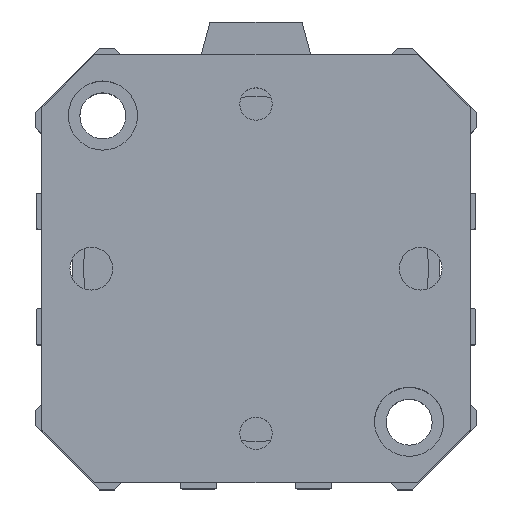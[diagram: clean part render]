
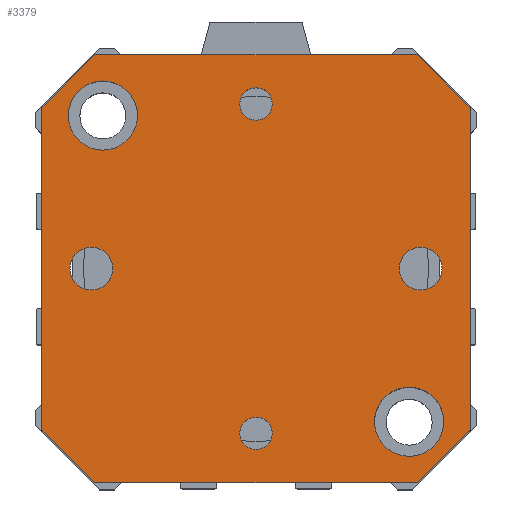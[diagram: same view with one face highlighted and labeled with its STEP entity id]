
A CAD part, top view. The second image highlights one B-rep face of the part: STEP entity #3379.
In plain terms, the highlighted planar face has unit normal (0, 0, 1).
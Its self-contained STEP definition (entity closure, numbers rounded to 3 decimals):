
#265=LINE('',#5630,#519);
#267=LINE('',#5634,#521);
#269=LINE('',#5638,#523);
#271=LINE('',#5642,#525);
#273=LINE('',#5646,#527);
#275=LINE('',#5650,#529);
#277=LINE('',#5654,#531);
#279=LINE('',#5657,#533);
#519=VECTOR('',#4681,49.);
#521=VECTOR('',#4685,11.314);
#523=VECTOR('',#4689,49.);
#525=VECTOR('',#4693,11.314);
#527=VECTOR('',#4697,49.);
#529=VECTOR('',#4701,11.314);
#531=VECTOR('',#4705,49.);
#533=VECTOR('',#4709,11.314);
#627=PLANE('',#3743);
#716=FACE_BOUND('',#1138,.T.);
#717=FACE_BOUND('',#1139,.T.);
#718=FACE_BOUND('',#1140,.T.);
#719=FACE_BOUND('',#1141,.T.);
#720=FACE_BOUND('',#1142,.T.);
#721=FACE_BOUND('',#1143,.T.);
#722=FACE_BOUND('',#1144,.T.);
#1138=EDGE_LOOP('',(#2914));
#1139=EDGE_LOOP('',(#2915));
#1140=EDGE_LOOP('',(#2916));
#1141=EDGE_LOOP('',(#2917));
#1142=EDGE_LOOP('',(#2918));
#1143=EDGE_LOOP('',(#2919));
#1144=EDGE_LOOP('',(#2920,#2921,#2922,#2923,#2924,#2925,#2926,#2927));
#1309=CIRCLE('',#3699,2.459);
#1311=CIRCLE('',#3702,2.459);
#1316=CIRCLE('',#3710,3.25);
#1320=CIRCLE('',#3717,3.25);
#1329=CIRCLE('',#3732,5.25);
#1330=CIRCLE('',#3734,5.25);
#1601=VERTEX_POINT('',#5548);
#1603=VERTEX_POINT('',#5553);
#1608=VERTEX_POINT('',#5566);
#1612=VERTEX_POINT('',#5577);
#1631=VERTEX_POINT('',#5621);
#1632=VERTEX_POINT('',#5624);
#1633=VERTEX_POINT('',#5627);
#1634=VERTEX_POINT('',#5629);
#1635=VERTEX_POINT('',#5633);
#1636=VERTEX_POINT('',#5637);
#1637=VERTEX_POINT('',#5641);
#1638=VERTEX_POINT('',#5645);
#1639=VERTEX_POINT('',#5649);
#1640=VERTEX_POINT('',#5653);
#2025=EDGE_CURVE('',#1601,#1601,#1309,.T.);
#2027=EDGE_CURVE('',#1603,#1603,#1311,.T.);
#2032=EDGE_CURVE('',#1608,#1608,#1316,.T.);
#2036=EDGE_CURVE('',#1612,#1612,#1320,.T.);
#2055=EDGE_CURVE('',#1631,#1631,#1329,.T.);
#2056=EDGE_CURVE('',#1632,#1632,#1330,.T.);
#2058=EDGE_CURVE('',#1634,#1633,#265,.T.);
#2060=EDGE_CURVE('',#1635,#1634,#267,.T.);
#2062=EDGE_CURVE('',#1636,#1635,#269,.T.);
#2064=EDGE_CURVE('',#1637,#1636,#271,.T.);
#2066=EDGE_CURVE('',#1638,#1637,#273,.T.);
#2068=EDGE_CURVE('',#1639,#1638,#275,.T.);
#2070=EDGE_CURVE('',#1640,#1639,#277,.T.);
#2072=EDGE_CURVE('',#1633,#1640,#279,.T.);
#2914=ORIENTED_EDGE('',*,*,#2025,.T.);
#2915=ORIENTED_EDGE('',*,*,#2027,.T.);
#2916=ORIENTED_EDGE('',*,*,#2032,.T.);
#2917=ORIENTED_EDGE('',*,*,#2036,.T.);
#2918=ORIENTED_EDGE('',*,*,#2055,.T.);
#2919=ORIENTED_EDGE('',*,*,#2056,.T.);
#2920=ORIENTED_EDGE('',*,*,#2072,.T.);
#2921=ORIENTED_EDGE('',*,*,#2070,.T.);
#2922=ORIENTED_EDGE('',*,*,#2068,.T.);
#2923=ORIENTED_EDGE('',*,*,#2066,.T.);
#2924=ORIENTED_EDGE('',*,*,#2064,.T.);
#2925=ORIENTED_EDGE('',*,*,#2062,.T.);
#2926=ORIENTED_EDGE('',*,*,#2060,.T.);
#2927=ORIENTED_EDGE('',*,*,#2058,.T.);
#3379=ADVANCED_FACE('',(#716,#717,#718,#719,#720,#721,#722),#627,.T.);
#3699=AXIS2_PLACEMENT_3D('',#5549,#4596,#4597);
#3702=AXIS2_PLACEMENT_3D('',#5554,#4602,#4603);
#3710=AXIS2_PLACEMENT_3D('',#5567,#4618,#4619);
#3717=AXIS2_PLACEMENT_3D('',#5578,#4632,#4633);
#3732=AXIS2_PLACEMENT_3D('',#5622,#4672,#4673);
#3734=AXIS2_PLACEMENT_3D('',#5625,#4676,#4677);
#3743=AXIS2_PLACEMENT_3D('',#5658,#4710,#4711);
#4596=DIRECTION('center_axis',(0.,0.,-1.));
#4597=DIRECTION('ref_axis',(1.,0.,0.));
#4602=DIRECTION('center_axis',(0.,0.,-1.));
#4603=DIRECTION('ref_axis',(1.,0.,0.));
#4618=DIRECTION('center_axis',(0.,0.,-1.));
#4619=DIRECTION('ref_axis',(1.,0.,0.));
#4632=DIRECTION('center_axis',(0.,0.,-1.));
#4633=DIRECTION('ref_axis',(1.,0.,0.));
#4672=DIRECTION('center_axis',(0.,0.,-1.));
#4673=DIRECTION('ref_axis',(-1.,0.,0.));
#4676=DIRECTION('center_axis',(0.,0.,-1.));
#4677=DIRECTION('ref_axis',(-1.,0.,0.));
#4681=DIRECTION('',(0.,1.,0.));
#4685=DIRECTION('',(0.707,0.707,0.));
#4689=DIRECTION('',(1.,0.,0.));
#4693=DIRECTION('',(0.707,-0.707,0.));
#4697=DIRECTION('',(0.,-1.,0.));
#4701=DIRECTION('',(-0.707,-0.707,0.));
#4705=DIRECTION('',(-1.,0.,0.));
#4709=DIRECTION('',(-0.707,0.707,0.));
#4710=DIRECTION('center_axis',(0.,0.,1.));
#4711=DIRECTION('ref_axis',(1.,0.,0.));
#5548=CARTESIAN_POINT('',(-27.459,0.,42.));
#5549=CARTESIAN_POINT('Origin',(-25.,0.,42.));
#5553=CARTESIAN_POINT('',(22.542,0.,42.));
#5554=CARTESIAN_POINT('Origin',(25.,0.,42.));
#5566=CARTESIAN_POINT('',(-3.25,25.,42.));
#5567=CARTESIAN_POINT('Origin',(0.,25.,42.));
#5577=CARTESIAN_POINT('',(-3.25,-25.,42.));
#5578=CARTESIAN_POINT('Origin',(0.,-25.,42.));
#5621=CARTESIAN_POINT('',(-18.,-23.25,42.));
#5622=CARTESIAN_POINT('Origin',(-23.25,-23.25,42.));
#5624=CARTESIAN_POINT('',(28.5,23.25,42.));
#5625=CARTESIAN_POINT('Origin',(23.25,23.25,42.));
#5627=CARTESIAN_POINT('',(32.5,24.5,42.));
#5629=CARTESIAN_POINT('',(32.5,-24.5,42.));
#5630=CARTESIAN_POINT('',(32.5,24.5,42.));
#5633=CARTESIAN_POINT('',(24.5,-32.5,42.));
#5634=CARTESIAN_POINT('',(32.5,-24.5,42.));
#5637=CARTESIAN_POINT('',(-24.5,-32.5,42.));
#5638=CARTESIAN_POINT('',(24.5,-32.5,42.));
#5641=CARTESIAN_POINT('',(-32.5,-24.5,42.));
#5642=CARTESIAN_POINT('',(-24.5,-32.5,42.));
#5645=CARTESIAN_POINT('',(-32.5,24.5,42.));
#5646=CARTESIAN_POINT('',(-32.5,-24.5,42.));
#5649=CARTESIAN_POINT('',(-24.5,32.5,42.));
#5650=CARTESIAN_POINT('',(-32.5,24.5,42.));
#5653=CARTESIAN_POINT('',(24.5,32.5,42.));
#5654=CARTESIAN_POINT('',(-24.5,32.5,42.));
#5657=CARTESIAN_POINT('',(24.5,32.5,42.));
#5658=CARTESIAN_POINT('Origin',(0.,0.,42.));
